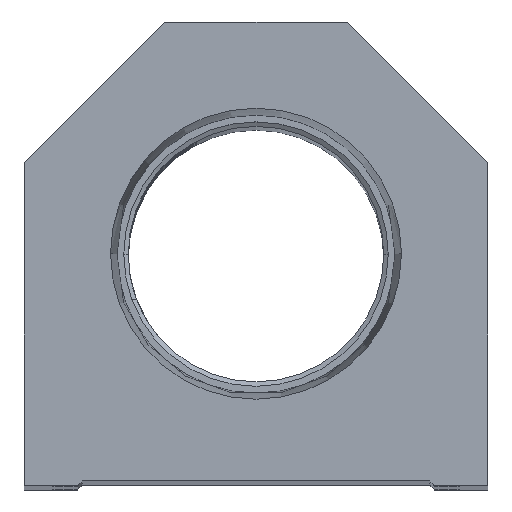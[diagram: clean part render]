
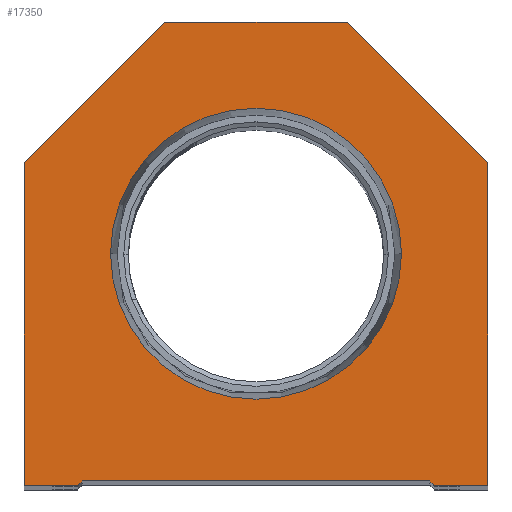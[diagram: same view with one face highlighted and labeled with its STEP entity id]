
A CAD part, top view. The second image highlights one B-rep face of the part: STEP entity #17350.
In plain terms, the highlighted planar face has unit normal (0, 0, 1).
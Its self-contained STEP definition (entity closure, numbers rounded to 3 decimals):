
#366 = DIRECTION ( 'NONE',  ( 1., 0., 0. ) ) ;
#428 = EDGE_CURVE ( 'NONE', #18522, #6971, #16077, .T. ) ;
#501 = ORIENTED_EDGE ( 'NONE', *, *, #15233, .T. ) ;
#623 = VERTEX_POINT ( 'NONE', #14849 ) ;
#681 = DIRECTION ( 'NONE',  ( 0., 0., 1. ) ) ;
#721 = VERTEX_POINT ( 'NONE', #6196 ) ;
#877 = CARTESIAN_POINT ( 'NONE',  ( -9.775, 9.775, 0. ) ) ;
#907 = AXIS2_PLACEMENT_3D ( 'NONE', #9060, #15346, #7485 ) ;
#1015 = CARTESIAN_POINT ( 'NONE',  ( 19.05, 0., 0. ) ) ;
#1504 = VERTEX_POINT ( 'NONE', #3034 ) ;
#1888 = VECTOR ( 'NONE', #16838, 1000. ) ;
#2094 = EDGE_CURVE ( 'NONE', #2413, #721, #18860, .T. ) ;
#2221 = FACE_BOUND ( 'NONE', #4606, .T. ) ;
#2413 = VERTEX_POINT ( 'NONE', #20042 ) ;
#2797 = ORIENTED_EDGE ( 'NONE', *, *, #3528, .T. ) ;
#3006 = LINE ( 'NONE', #3207, #16665 ) ;
#3034 = CARTESIAN_POINT ( 'NONE',  ( 10., 50.8, 0. ) ) ;
#3071 = CARTESIAN_POINT ( 'NONE',  ( 19.05, 0.5, 0. ) ) ;
#3144 = DIRECTION ( 'NONE',  ( 0., 0., 1. ) ) ;
#3207 = CARTESIAN_POINT ( 'NONE',  ( -25.4, 0., 0. ) ) ;
#3224 = EDGE_CURVE ( 'NONE', #3296, #15875, #13886, .T. ) ;
#3296 = VERTEX_POINT ( 'NONE', #10809 ) ;
#3297 = ORIENTED_EDGE ( 'NONE', *, *, #12934, .T. ) ;
#3528 = EDGE_CURVE ( 'NONE', #17182, #3296, #3006, .T. ) ;
#3543 = VERTEX_POINT ( 'NONE', #15624 ) ;
#3602 = VECTOR ( 'NONE', #20181, 1000. ) ;
#3724 = CARTESIAN_POINT ( 'NONE',  ( -19.05, 0.5, 0. ) ) ;
#3792 = DIRECTION ( 'NONE',  ( 1., 0., 0. ) ) ;
#4010 = ORIENTED_EDGE ( 'NONE', *, *, #13371, .T. ) ;
#4036 = VECTOR ( 'NONE', #9703, 1000. ) ;
#4512 = CARTESIAN_POINT ( 'NONE',  ( -25.4, 35.4, 0. ) ) ;
#4606 = EDGE_LOOP ( 'NONE', ( #14277, #10668 ) ) ;
#4681 = CARTESIAN_POINT ( 'NONE',  ( 25.4, 35.4, 0. ) ) ;
#5133 = EDGE_CURVE ( 'NONE', #14425, #1504, #12173, .T. ) ;
#6178 = VECTOR ( 'NONE', #15868, 1000. ) ;
#6196 = CARTESIAN_POINT ( 'NONE',  ( 15.947, 25.4, 0. ) ) ;
#6250 = CARTESIAN_POINT ( 'NONE',  ( -19.05, 0.5, 0. ) ) ;
#6481 = EDGE_CURVE ( 'NONE', #721, #2413, #11830, .T. ) ;
#6778 = CARTESIAN_POINT ( 'NONE',  ( 9.775, 9.775, 0. ) ) ;
#6971 = VERTEX_POINT ( 'NONE', #3071 ) ;
#7180 = DIRECTION ( 'NONE',  ( 0.707, 0.707, 0. ) ) ;
#7456 = CARTESIAN_POINT ( 'NONE',  ( 25.4, 0., 0. ) ) ;
#7485 = DIRECTION ( 'NONE',  ( 1., 0., 0. ) ) ;
#8047 = DIRECTION ( 'NONE',  ( -0.707, -0.707, 0. ) ) ;
#8492 = CARTESIAN_POINT ( 'NONE',  ( 10., 50.8, 0. ) ) ;
#8948 = CARTESIAN_POINT ( 'NONE',  ( -19.05, 0., 0. ) ) ;
#9060 = CARTESIAN_POINT ( 'NONE',  ( 0., 25.4, 0. ) ) ;
#9411 = CARTESIAN_POINT ( 'NONE',  ( 25.4, 35.4, 0. ) ) ;
#9703 = DIRECTION ( 'NONE',  ( 0.707, -0.707, 0. ) ) ;
#10069 = VECTOR ( 'NONE', #3792, 1000. ) ;
#10137 = DIRECTION ( 'NONE',  ( -1., 0., 0. ) ) ;
#10629 = AXIS2_PLACEMENT_3D ( 'NONE', #17327, #3144, #366 ) ;
#10668 = ORIENTED_EDGE ( 'NONE', *, *, #2094, .F. ) ;
#10806 = EDGE_CURVE ( 'NONE', #623, #17182, #14551, .T. ) ;
#10809 = CARTESIAN_POINT ( 'NONE',  ( -25.4, 0., 0. ) ) ;
#10901 = DIRECTION ( 'NONE',  ( 0., -1., 0. ) ) ;
#11023 = ORIENTED_EDGE ( 'NONE', *, *, #3224, .T. ) ;
#11830 = CIRCLE ( 'NONE', #907, 15.947 ) ;
#12133 = LINE ( 'NONE', #7456, #3602 ) ;
#12173 = LINE ( 'NONE', #4681, #16038 ) ;
#12640 = CARTESIAN_POINT ( 'NONE',  ( 25.4, 0., 0. ) ) ;
#12934 = EDGE_CURVE ( 'NONE', #6971, #3543, #19312, .T. ) ;
#13371 = EDGE_CURVE ( 'NONE', #1504, #623, #17780, .T. ) ;
#13431 = EDGE_LOOP ( 'NONE', ( #11023, #16146, #19948, #3297, #501, #19782, #14432, #4010, #17786, #2797 ) ) ;
#13511 = DIRECTION ( 'NONE',  ( -0.707, 0.707, 0. ) ) ;
#13886 = LINE ( 'NONE', #8948, #10069 ) ;
#13970 = CARTESIAN_POINT ( 'NONE',  ( -19.55, 0., 0. ) ) ;
#14277 = ORIENTED_EDGE ( 'NONE', *, *, #6481, .F. ) ;
#14425 = VERTEX_POINT ( 'NONE', #9411 ) ;
#14432 = ORIENTED_EDGE ( 'NONE', *, *, #5133, .T. ) ;
#14551 = LINE ( 'NONE', #14756, #16021 ) ;
#14756 = CARTESIAN_POINT ( 'NONE',  ( -25.4, 35.4, 0. ) ) ;
#14849 = CARTESIAN_POINT ( 'NONE',  ( -10., 50.8, 0. ) ) ;
#15233 = EDGE_CURVE ( 'NONE', #3543, #18493, #17905, .T. ) ;
#15346 = DIRECTION ( 'NONE',  ( 0., 0., 1. ) ) ;
#15624 = CARTESIAN_POINT ( 'NONE',  ( 19.55, 0., 0. ) ) ;
#15663 = EDGE_CURVE ( 'NONE', #15875, #18522, #19600, .T. ) ;
#15756 = AXIS2_PLACEMENT_3D ( 'NONE', #19315, #681, #17938 ) ;
#15868 = DIRECTION ( 'NONE',  ( 1., 0., 0. ) ) ;
#15875 = VERTEX_POINT ( 'NONE', #13970 ) ;
#16021 = VECTOR ( 'NONE', #8047, 1000. ) ;
#16038 = VECTOR ( 'NONE', #13511, 1000. ) ;
#16077 = LINE ( 'NONE', #6250, #6178 ) ;
#16146 = ORIENTED_EDGE ( 'NONE', *, *, #15663, .T. ) ;
#16665 = VECTOR ( 'NONE', #10901, 1000. ) ;
#16838 = DIRECTION ( 'NONE',  ( 1., 0., 0. ) ) ;
#17182 = VERTEX_POINT ( 'NONE', #4512 ) ;
#17327 = CARTESIAN_POINT ( 'NONE',  ( 0., 25.4, 0. ) ) ;
#17350 = ADVANCED_FACE ( 'NONE', ( #2221, #17749 ), #19509, .T. ) ;
#17749 = FACE_OUTER_BOUND ( 'NONE', #13431, .T. ) ;
#17780 = LINE ( 'NONE', #8492, #19868 ) ;
#17786 = ORIENTED_EDGE ( 'NONE', *, *, #10806, .T. ) ;
#17905 = LINE ( 'NONE', #1015, #1888 ) ;
#17938 = DIRECTION ( 'NONE',  ( 1., 0., 0. ) ) ;
#18094 = VECTOR ( 'NONE', #7180, 1000. ) ;
#18493 = VERTEX_POINT ( 'NONE', #12640 ) ;
#18522 = VERTEX_POINT ( 'NONE', #3724 ) ;
#18860 = CIRCLE ( 'NONE', #10629, 15.947 ) ;
#19312 = LINE ( 'NONE', #6778, #4036 ) ;
#19315 = CARTESIAN_POINT ( 'NONE',  ( 0., 0., 0. ) ) ;
#19509 = PLANE ( 'NONE',  #15756 ) ;
#19600 = LINE ( 'NONE', #877, #18094 ) ;
#19782 = ORIENTED_EDGE ( 'NONE', *, *, #20243, .T. ) ;
#19868 = VECTOR ( 'NONE', #10137, 1000. ) ;
#19948 = ORIENTED_EDGE ( 'NONE', *, *, #428, .T. ) ;
#20042 = CARTESIAN_POINT ( 'NONE',  ( -15.947, 25.4, 0. ) ) ;
#20181 = DIRECTION ( 'NONE',  ( 0., 1., 0. ) ) ;
#20243 = EDGE_CURVE ( 'NONE', #18493, #14425, #12133, .T. ) ;
